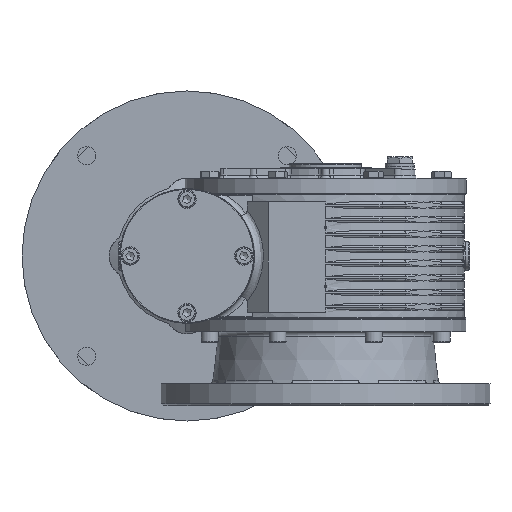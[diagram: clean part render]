
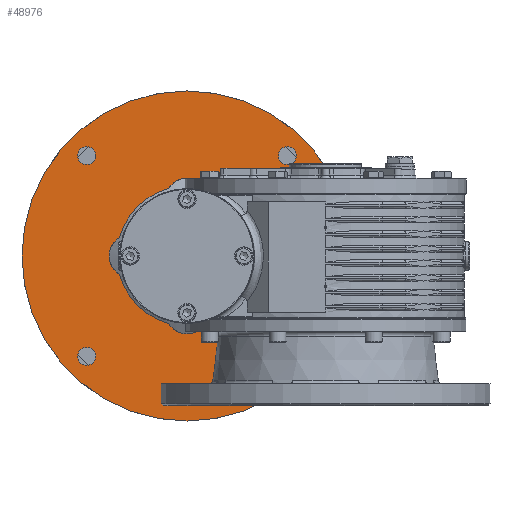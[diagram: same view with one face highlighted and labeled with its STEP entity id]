
A CAD part, left-side view. The second image highlights one B-rep face of the part: STEP entity #48976.
In plain terms, the highlighted planar face has unit normal (-1, 0, 0) as drawn and (0, 0, 1) by its records, which use the part's own axes.
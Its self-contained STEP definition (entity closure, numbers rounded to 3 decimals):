
#47213=CARTESIAN_POINT('',(-82.764,-76.014,11.0));
#47214=VERTEX_POINT('',#47213);
#47215=CARTESIAN_POINT('',(-76.014,-76.014,11.0));
#47216=DIRECTION('',(0.0,0.0,-1.0));
#47217=DIRECTION('',(1.0,0.0,0.0));
#47218=AXIS2_PLACEMENT_3D('',#47215,#47216,#47217);
#47219=CIRCLE('',#47218,6.75);
#47220=EDGE_CURVE('',#47214,#47214,#47219,.T.);
#47233=CARTESIAN_POINT('',(69.264,76.014,11.0));
#47234=VERTEX_POINT('',#47233);
#47235=CARTESIAN_POINT('',(76.014,76.014,11.0));
#47236=DIRECTION('',(0.0,0.0,-1.0));
#47237=DIRECTION('',(1.0,0.0,0.0));
#47238=AXIS2_PLACEMENT_3D('',#47235,#47236,#47237);
#47239=CIRCLE('',#47238,6.75);
#47240=EDGE_CURVE('',#47234,#47234,#47239,.T.);
#47253=CARTESIAN_POINT('',(-82.764,76.014,11.0));
#47254=VERTEX_POINT('',#47253);
#47255=CARTESIAN_POINT('',(-76.014,76.014,11.0));
#47256=DIRECTION('',(0.0,0.0,-1.0));
#47257=DIRECTION('',(1.0,0.0,0.0));
#47258=AXIS2_PLACEMENT_3D('',#47255,#47256,#47257);
#47259=CIRCLE('',#47258,6.75);
#47260=EDGE_CURVE('',#47254,#47254,#47259,.T.);
#47273=CARTESIAN_POINT('',(69.264,-76.014,11.0));
#47274=VERTEX_POINT('',#47273);
#47275=CARTESIAN_POINT('',(76.014,-76.014,11.0));
#47276=DIRECTION('',(0.0,0.0,-1.0));
#47277=DIRECTION('',(1.0,0.0,0.0));
#47278=AXIS2_PLACEMENT_3D('',#47275,#47276,#47277);
#47279=CIRCLE('',#47278,6.75);
#47280=EDGE_CURVE('',#47274,#47274,#47279,.T.);
#48716=CARTESIAN_POINT('',(-13.747,51.186,11.0));
#48717=VERTEX_POINT('',#48716);
#48724=CARTESIAN_POINT('',(-51.186,13.747,11.0));
#48725=VERTEX_POINT('',#48724);
#48726=CARTESIAN_POINT('',(0.0,0.0,11.0));
#48727=DIRECTION('',(0.0,0.0,-1.0));
#48728=DIRECTION('',(-1.0,0.0,0.0));
#48729=AXIS2_PLACEMENT_3D('',#48726,#48727,#48728);
#48730=CIRCLE('',#48729,53.);
#48731=EDGE_CURVE('',#48725,#48717,#48730,.T.);
#48749=CARTESIAN_POINT('',(13.747,51.186,11.0));
#48750=VERTEX_POINT('',#48749);
#48757=CARTESIAN_POINT('',(0.0,43.0,11.0));
#48758=DIRECTION('',(0.0,0.0,-1.0));
#48759=DIRECTION('',(-1.0,0.0,0.0));
#48760=AXIS2_PLACEMENT_3D('',#48757,#48758,#48759);
#48761=CIRCLE('',#48760,16.0);
#48762=EDGE_CURVE('',#48717,#48750,#48761,.T.);
#48774=CARTESIAN_POINT('',(51.186,13.747,11.0));
#48775=VERTEX_POINT('',#48774);
#48782=CARTESIAN_POINT('',(0.0,0.0,11.0));
#48783=DIRECTION('',(0.0,0.0,-1.0));
#48784=DIRECTION('',(-1.0,0.0,0.0));
#48785=AXIS2_PLACEMENT_3D('',#48782,#48783,#48784);
#48786=CIRCLE('',#48785,53.);
#48787=EDGE_CURVE('',#48750,#48775,#48786,.T.);
#48811=CARTESIAN_POINT('',(-51.186,-13.747,11.0));
#48812=VERTEX_POINT('',#48811);
#48819=CARTESIAN_POINT('',(-13.747,-51.186,11.0));
#48820=VERTEX_POINT('',#48819);
#48821=CARTESIAN_POINT('',(0.0,0.0,11.0));
#48822=DIRECTION('',(0.0,0.0,-1.0));
#48823=DIRECTION('',(-1.0,0.0,0.0));
#48824=AXIS2_PLACEMENT_3D('',#48821,#48822,#48823);
#48825=CIRCLE('',#48824,53.);
#48826=EDGE_CURVE('',#48820,#48812,#48825,.T.);
#48843=CARTESIAN_POINT('',(13.747,-51.186,11.0));
#48844=VERTEX_POINT('',#48843);
#48851=CARTESIAN_POINT('',(51.186,-13.747,11.0));
#48852=VERTEX_POINT('',#48851);
#48853=CARTESIAN_POINT('',(0.0,0.0,11.0));
#48854=DIRECTION('',(0.0,0.0,-1.0));
#48855=DIRECTION('',(-1.0,0.0,0.0));
#48856=AXIS2_PLACEMENT_3D('',#48853,#48854,#48855);
#48857=CIRCLE('',#48856,53.);
#48858=EDGE_CURVE('',#48852,#48844,#48857,.T.);
#48876=CARTESIAN_POINT('',(43.0,0.,11.0));
#48877=DIRECTION('',(0.0,0.0,-1.0));
#48878=DIRECTION('',(-1.0,0.0,0.0));
#48879=AXIS2_PLACEMENT_3D('',#48876,#48877,#48878);
#48880=CIRCLE('',#48879,16.0);
#48881=EDGE_CURVE('',#48775,#48852,#48880,.T.);
#48895=CARTESIAN_POINT('',(-43.0,0.,11.0));
#48896=DIRECTION('',(0.0,0.0,-1.0));
#48897=DIRECTION('',(-1.0,0.0,0.0));
#48898=AXIS2_PLACEMENT_3D('',#48895,#48896,#48897);
#48899=CIRCLE('',#48898,16.0);
#48900=EDGE_CURVE('',#48812,#48725,#48899,.T.);
#48914=CARTESIAN_POINT('',(0.,-43.0,11.0));
#48915=DIRECTION('',(0.0,0.0,-1.0));
#48916=DIRECTION('',(-1.0,0.0,0.0));
#48917=AXIS2_PLACEMENT_3D('',#48914,#48915,#48916);
#48918=CIRCLE('',#48917,16.0);
#48919=EDGE_CURVE('',#48844,#48820,#48918,.T.);
#48931=CARTESIAN_POINT('',(125.0,0.,11.0));
#48932=VERTEX_POINT('',#48931);
#48933=CARTESIAN_POINT('',(0.0,0.0,11.0));
#48934=DIRECTION('',(0.0,0.0,-1.0));
#48935=DIRECTION('',(-1.0,0.0,0.0));
#48936=AXIS2_PLACEMENT_3D('',#48933,#48934,#48935);
#48937=CIRCLE('',#48936,125.0);
#48938=EDGE_CURVE('',#48932,#48932,#48937,.T.);
#48946=CARTESIAN_POINT('',(0.0,0.0,11.0));
#48947=DIRECTION('',(0.0,0.0,-1.0));
#48948=DIRECTION('',(-1.0,0.0,0.0));
#48949=AXIS2_PLACEMENT_3D('',#48946,#48947,#48948);
#48950=PLANE('',#48949);
#48951=ORIENTED_EDGE('',*,*,#48938,.F.);
#48952=EDGE_LOOP('',(#48951));
#48953=FACE_OUTER_BOUND('',#48952,.T.);
#48954=ORIENTED_EDGE('',*,*,#47220,.T.);
#48955=EDGE_LOOP('',(#48954));
#48956=FACE_BOUND('',#48955,.T.);
#48957=ORIENTED_EDGE('',*,*,#47240,.T.);
#48958=EDGE_LOOP('',(#48957));
#48959=FACE_BOUND('',#48958,.T.);
#48960=ORIENTED_EDGE('',*,*,#47260,.T.);
#48961=EDGE_LOOP('',(#48960));
#48962=FACE_BOUND('',#48961,.T.);
#48963=ORIENTED_EDGE('',*,*,#47280,.T.);
#48964=EDGE_LOOP('',(#48963));
#48965=FACE_BOUND('',#48964,.T.);
#48966=ORIENTED_EDGE('',*,*,#48858,.T.);
#48967=ORIENTED_EDGE('',*,*,#48919,.T.);
#48968=ORIENTED_EDGE('',*,*,#48826,.T.);
#48969=ORIENTED_EDGE('',*,*,#48900,.T.);
#48970=ORIENTED_EDGE('',*,*,#48731,.T.);
#48971=ORIENTED_EDGE('',*,*,#48762,.T.);
#48972=ORIENTED_EDGE('',*,*,#48787,.T.);
#48973=ORIENTED_EDGE('',*,*,#48881,.T.);
#48974=EDGE_LOOP('',(#48966,#48967,#48968,#48969,#48970,#48971,#48972,#48973));
#48975=FACE_BOUND('',#48974,.T.);
#48976=ADVANCED_FACE('',(#48953,#48956,#48959,#48962,#48965,#48975),#48950,.F.);
